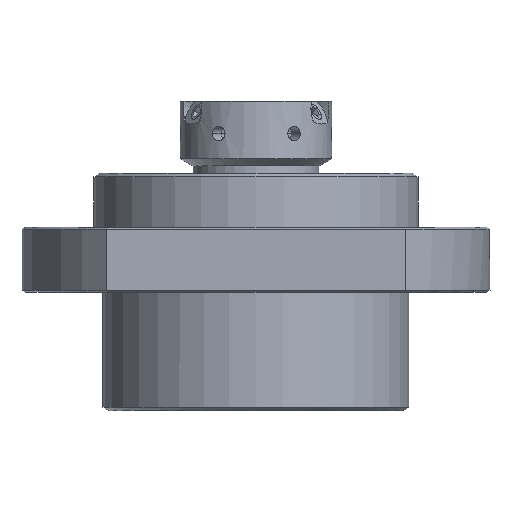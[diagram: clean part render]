
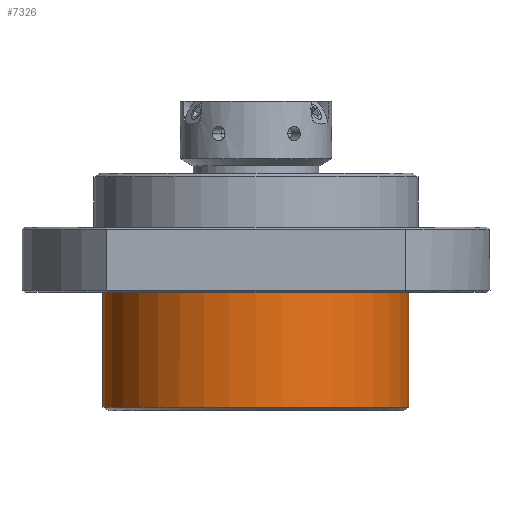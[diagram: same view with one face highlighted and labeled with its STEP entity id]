
A CAD part, front view. The second image highlights one B-rep face of the part: STEP entity #7326.
In plain terms, the highlighted cylindrical face has radius 42.5 mm (diameter 85 mm), a partial arc.
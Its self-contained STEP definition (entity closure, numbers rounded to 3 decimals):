
#580 = DIRECTION ( 'NONE',  ( -1., 0., 0. ) ) ;
#1226 = AXIS2_PLACEMENT_3D ( 'NONE', #12857, #1873, #580 ) ;
#1537 = VERTEX_POINT ( 'NONE', #2054 ) ;
#1706 = DIRECTION ( 'NONE',  ( 0., 0., -1. ) ) ;
#1757 = DIRECTION ( 'NONE',  ( 0., 0., 1. ) ) ;
#1873 = DIRECTION ( 'NONE',  ( 0., 0., -1. ) ) ;
#2054 = CARTESIAN_POINT ( 'NONE',  ( -42.5, 0., -25. ) ) ;
#2636 = CYLINDRICAL_SURFACE ( 'NONE', #1226, 42.5 ) ;
#2757 = DIRECTION ( 'NONE',  ( 0., 0., -1. ) ) ;
#2954 = LINE ( 'NONE', #7151, #11643 ) ;
#2998 = DIRECTION ( 'NONE',  ( 0., 0., -1. ) ) ;
#3033 = FACE_OUTER_BOUND ( 'NONE', #11757, .T. ) ;
#3151 = CARTESIAN_POINT ( 'NONE',  ( 0., 0., 7. ) ) ;
#3804 = CIRCLE ( 'NONE', #15011, 42.5 ) ;
#4043 = CARTESIAN_POINT ( 'NONE',  ( 0., 0., -25. ) ) ;
#4116 = EDGE_CURVE ( 'NONE', #1537, #16016, #10995, .T. ) ;
#4138 = EDGE_CURVE ( 'NONE', #10756, #16016, #8468, .T. ) ;
#4497 = ORIENTED_EDGE ( 'NONE', *, *, #4138, .F. ) ;
#5671 = ORIENTED_EDGE ( 'NONE', *, *, #4116, .T. ) ;
#6272 = AXIS2_PLACEMENT_3D ( 'NONE', #4043, #1757, #8950 ) ;
#6893 = EDGE_CURVE ( 'NONE', #10756, #11294, #3804, .T. ) ;
#7151 = CARTESIAN_POINT ( 'NONE',  ( -42.5, 0., 7. ) ) ;
#7233 = ORIENTED_EDGE ( 'NONE', *, *, #15470, .T. ) ;
#7326 = ADVANCED_FACE ( 'NONE', ( #3033 ), #2636, .T. ) ;
#7779 = CARTESIAN_POINT ( 'NONE',  ( 42.5, 0., 7. ) ) ;
#8408 = CARTESIAN_POINT ( 'NONE',  ( -42.5, 0., 7. ) ) ;
#8468 = LINE ( 'NONE', #7779, #8645 ) ;
#8645 = VECTOR ( 'NONE', #1706, 1000. ) ;
#8950 = DIRECTION ( 'NONE',  ( 1., 0., 0. ) ) ;
#9342 = DIRECTION ( 'NONE',  ( -1., 0., 0. ) ) ;
#10124 = ORIENTED_EDGE ( 'NONE', *, *, #6893, .T. ) ;
#10756 = VERTEX_POINT ( 'NONE', #13197 ) ;
#10995 = CIRCLE ( 'NONE', #6272, 42.5 ) ;
#11294 = VERTEX_POINT ( 'NONE', #8408 ) ;
#11643 = VECTOR ( 'NONE', #2757, 1000. ) ;
#11757 = EDGE_LOOP ( 'NONE', ( #4497, #10124, #7233, #5671 ) ) ;
#12857 = CARTESIAN_POINT ( 'NONE',  ( 0., 0., 7. ) ) ;
#13197 = CARTESIAN_POINT ( 'NONE',  ( 42.5, 0., 7. ) ) ;
#15011 = AXIS2_PLACEMENT_3D ( 'NONE', #3151, #2998, #9342 ) ;
#15259 = CARTESIAN_POINT ( 'NONE',  ( 42.5, 0., -25. ) ) ;
#15470 = EDGE_CURVE ( 'NONE', #11294, #1537, #2954, .T. ) ;
#16016 = VERTEX_POINT ( 'NONE', #15259 ) ;
